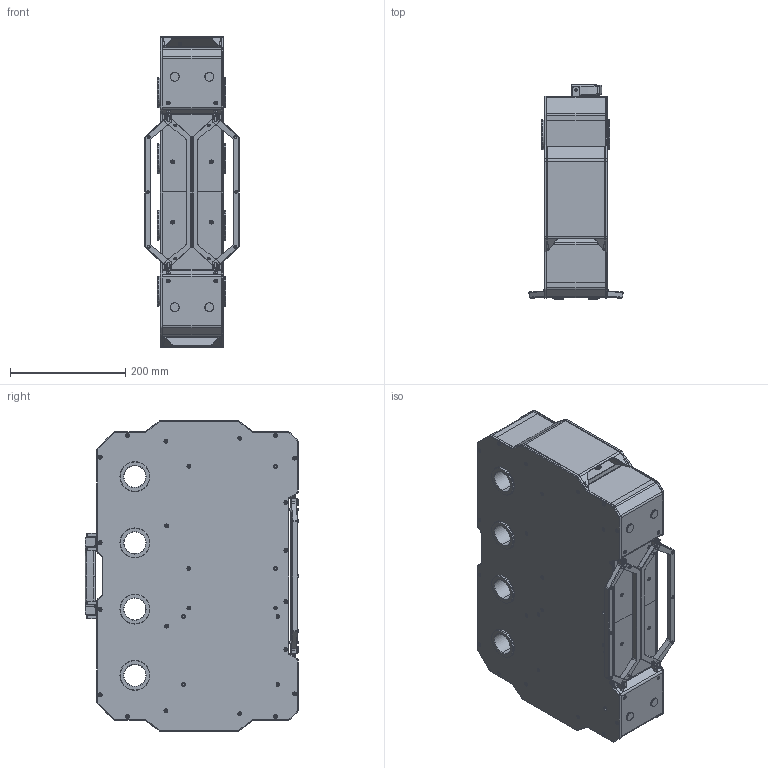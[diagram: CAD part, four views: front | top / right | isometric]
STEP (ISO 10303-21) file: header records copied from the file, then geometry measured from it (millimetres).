
FILE_DESCRIPTION (( 'STEP AP203' ), '1' );
FILE_NAME ('軞傖-EV4000.STEP', '2022-03-21T02:02:54', ( '' ), ( '' ), 'SwSTEP 2.0', 'SolidWorks 2016', '' );
FILE_SCHEMA (( 'CONFIG_CONTROL_DESIGN' ));
Products named in the file (2): 軞傖-EV4000
Bounding box: 163.66 x 371.3 x 540 mm (x, y, z)
Surface area: 988380.7 mm2 (no closed solid volume)
Topology: 0 solids, 137 shells, 1297 faces, 4278 edges, 3055 vertices
Faces by surface type: plane 570, cylinder 390, cone 253, bspline 59, torus 25
Entity records: 56340 total; most frequent: CARTESIAN_POINT 19082, DIRECTION 7967, ORIENTED_EDGE 6531, EDGE_CURVE 4258, VERTEX_POINT 3055, AXIS2_PLACEMENT_3D 2738, VECTOR 2491, LINE 2491
